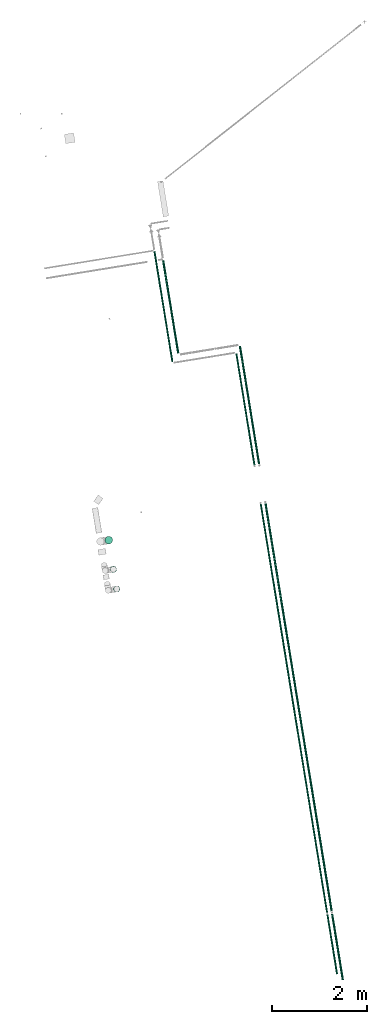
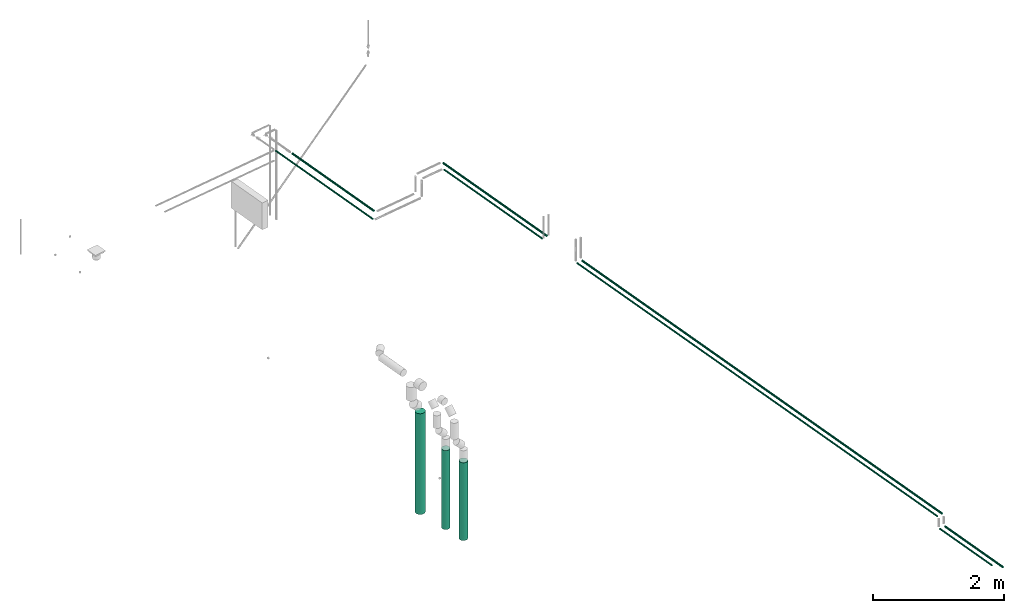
# One storey, part 1 of 11: 11 flow segments.
"""IFC2X3 building model written with IfcOpenShell, lengths in millimetres."""

import ifcopenshell
import ifcopenshell.guid

model = None  # the IFC model being written
_history = None  # IfcOwnerHistory: only IFC2X3 demands one
_inside = {}  # id of a spatial element -> (the spatial element, [elements in it])
_under = {}  # id of a project, library or spatial element -> (it, [spatial elements below it])
_declared = {}  # id of a project -> (the project, [libraries it declares])
_typed = {}  # id of a type object -> (the type object, [elements of that type])
_made_of = {}  # id of a material, layer set ... -> (it, [elements and type objects made of it])


def new_model(schema):
    """Start an empty IFC model of exactly this schema.

    Asked for "IFC4X3", IfcOpenShell would pick the latest addendum, in which some entities
    have other attributes; the version numbers below select the first issue.
    IFC2X3 requires an IfcOwnerHistory on every rooted entity: one is made here for all.
    """
    global model, _history
    if schema == "IFC4X3":
        model = ifcopenshell.file(schema_version=(4, 3, 0, 0))
    else:
        model = ifcopenshell.file(schema=schema)
    _inside.clear()
    _under.clear()
    _declared.clear()
    _typed.clear()
    _made_of.clear()
    _history = None
    if model.schema == "IFC2X3":
        org = make("IfcOrganization", Name="unknown")
        user = make(
            "IfcPersonAndOrganization",
            ThePerson=make("IfcPerson", FamilyName="unknown"),
            TheOrganization=org,
        )
        app = make(
            "IfcApplication",
            ApplicationDeveloper=org,
            Version="unknown",
            ApplicationFullName="unknown",
            ApplicationIdentifier="unknown",
        )
        _history = make(
            "IfcOwnerHistory",
            OwningUser=user,
            OwningApplication=app,
            ChangeAction="ADDED",
            CreationDate=0,
        )
    return model


def make(cls, **values):
    """One entity of the class cls with the attributes given. An attribute that is None is left unset."""
    return model.create_entity(
        cls, **{name: value for name, value in values.items() if value is not None}
    )


def entity(cls, *values):
    """Any entity or typed value of the class cls, its attributes in the order of the schema. None: left unset."""
    e = model.create_entity(cls)
    for i, value in enumerate(values):
        if value is not None:
            e[i] = value
    return e


def rooted(cls, **values):
    """An entity with a GlobalId (a new one), such as an element, a storey or a relation."""
    return make(cls, GlobalId=ifcopenshell.guid.new(), OwnerHistory=_history, **values)


def si_unit(unit_type, name, prefix=None):
    """IfcSIUnit, for example si_unit("LENGTHUNIT", "METRE", prefix="MILLI")."""
    return make("IfcSIUnit", UnitType=unit_type, Prefix=prefix, Name=name)


def converted_unit(unit_type, name, factor, base, dimensions=None, offset=None):
    """IfcConversionBasedUnit, such as the inch: factor (a typed value) times the base unit."""
    return make(
        "IfcConversionBasedUnit"
        if offset is None
        else "IfcConversionBasedUnitWithOffset",
        ConversionOffset=offset,
        Dimensions=None
        if dimensions is None
        else entity("IfcDimensionalExponents", *dimensions),
        UnitType=unit_type,
        Name=name,
        ConversionFactor=make(
            "IfcMeasureWithUnit", ValueComponent=factor, UnitComponent=base
        ),
    )


def derived_unit(unit_type, elements):
    """IfcDerivedUnit: a product of units, each with its exponent."""
    return make(
        "IfcDerivedUnit",
        Elements=[
            make("IfcDerivedUnitElement", Unit=unit, Exponent=power)
            for unit, power in elements
        ],
        UnitType=unit_type,
    )


def assignment(units):
    """IfcUnitAssignment: the units of a project."""
    return None if units is None else make("IfcUnitAssignment", Units=units)


def point(xyz):
    """IfcCartesianPoint."""
    return None if xyz is None else make("IfcCartesianPoint", Coordinates=xyz)


def direction(xyz):
    """IfcDirection."""
    return None if xyz is None else make("IfcDirection", DirectionRatios=xyz)


def frame(location, z_axis=None, x_axis=None):
    """IfcAxis2Placement3D, a coordinate frame: its origin and axes. An axis left out is left unset."""
    return make(
        "IfcAxis2Placement3D",
        Location=point(location),
        Axis=direction(z_axis),
        RefDirection=direction(x_axis),
    )


def frame_2d(location, x_axis=None):
    """IfcAxis2Placement2D, a coordinate frame in the plane: its origin and x axis."""
    return make(
        "IfcAxis2Placement2D", Location=point(location), RefDirection=direction(x_axis)
    )


def origin():
    """The frame at (0, 0, 0) with its axes left unset."""
    return frame((0.0, 0.0, 0.0))


def origin_with_axes():
    """The frame at (0, 0, 0) with the z axis (0, 0, 1) and the x axis (1, 0, 0) written out."""
    return frame((0.0, 0.0, 0.0), z_axis=(0.0, 0.0, 1.0), x_axis=(1.0, 0.0, 0.0))


def origin_2d_with_axis():
    """The frame at (0, 0) in the plane with the x axis (1, 0) written out."""
    return frame_2d((0.0, 0.0), x_axis=(1.0, 0.0))


def place(relative_to, where):
    """IfcLocalPlacement: puts the frame where relative to a parent placement (None: the world)."""
    return make(
        "IfcLocalPlacement", PlacementRelTo=relative_to, RelativePlacement=where
    )


def context(
    kind, dimensions, precision=None, world=None, true_north=None, identifier=None
):
    """IfcGeometricRepresentationContext, for example the 3D "Model" context."""
    return make(
        "IfcGeometricRepresentationContext",
        ContextIdentifier=identifier,
        ContextType=kind,
        CoordinateSpaceDimension=dimensions,
        Precision=precision,
        WorldCoordinateSystem=world,
        TrueNorth=true_north,
    )


def subcontext(parent, identifier, kind, view, scale=None):
    """IfcGeometricRepresentationSubContext, for example "Body" below "Model"."""
    return make(
        "IfcGeometricRepresentationSubContext",
        ContextIdentifier=identifier,
        ContextType=kind,
        ParentContext=parent,
        TargetScale=scale,
        TargetView=view,
    )


def project(units=None, contexts=None):
    """IfcProject with its units and contexts."""
    return rooted(
        "IfcProject",
        Name="project",
        RepresentationContexts=contexts,
        UnitsInContext=assignment(units),
    )


def spatial(cls, under=None, at=None, **own):
    """A site, building, storey or space (cls), placed at a placement, below another one or the project."""
    s = rooted(cls, ObjectPlacement=at, **own)
    if under is not None:
        _under.setdefault(under.id(), (under, []))[1].append(s)
    return s


def profile(cls, at=None, kind="AREA", **sizes):
    """A parametric profile (cls). Its sizes go by their IFC names, for example OverallWidth=200.0."""
    return make(cls, ProfileType=kind, Position=at, **sizes)


def circle(**sizes):
    """IfcCircleProfileDef."""
    return profile("IfcCircleProfileDef", **sizes)


def extrude(swept, where, along, depth):
    """IfcExtrudedAreaSolid: the profile swept, set in the frame where, extruded along a direction by depth."""
    return make(
        "IfcExtrudedAreaSolid",
        SweptArea=swept,
        Position=where,
        ExtrudedDirection=direction(along),
        Depth=depth,
    )


def shape(context_of_items, identifier, shape_type, items):
    """IfcShapeRepresentation: the items that make up one representation, for example the "Body"."""
    return make(
        "IfcShapeRepresentation",
        ContextOfItems=context_of_items,
        RepresentationIdentifier=identifier,
        RepresentationType=shape_type,
        Items=items,
    )


def made_of(thing, what):
    """Note that an element or type object is made of a material, layer set ...; save() writes the relation."""
    if what is not None:
        _made_of.setdefault(what.id(), (what, []))[1].append(thing)
    return thing


def type_object(cls, material=None, **own):
    """A type object (cls), such as IfcWallType, which elements share."""
    return made_of(rooted(cls, **own), material)


def element(
    cls,
    number,
    at=None,
    inside=None,
    cuts=None,
    type_object=None,
    material=None,
    context=None,
    identifier="Body",
    shape_type=None,
    held_by="IfcProductDefinitionShape",
    body=None,
    shapes=None,
    **own,
):
    """One element of the class cls, such as IfcWall. Its Tag is "e" and its number.

    at: its placement. inside: the storey or other place that contains it. cuts: it is an
    opening in that element (IfcRelVoidsElement). A single representation is given by context,
    identifier, shape_type and body (its items); several are given by shapes. held_by: the class
    of the entity that holds the representations. save() writes the other relations.
    """
    e = rooted(cls, Tag="e%d" % number, ObjectPlacement=at, **own)
    if body is not None:
        shapes = [shape(context, identifier, shape_type, body)]
    if shapes is not None:
        e.Representation = make(held_by, Representations=shapes)
    if inside is not None:
        _inside.setdefault(inside.id(), (inside, []))[1].append(e)
    if cuts is not None:
        rooted(
            "IfcRelVoidsElement", RelatingBuildingElement=cuts, RelatedOpeningElement=e
        )
    if type_object is not None:
        _typed.setdefault(type_object.id(), (type_object, []))[1].append(e)
    return made_of(e, material)


def aggregate(whole, parts):
    """IfcRelAggregates: a whole, such as a stair, and the parts it consists of."""
    return rooted("IfcRelAggregates", RelatingObject=whole, RelatedObjects=parts)


def save(model, path):
    """Write the relations noted so far, then the file.

    IfcRelAggregates (storeys below a building ...), IfcRelContainedInSpatialStructure (elements
    in a storey), IfcRelDefinesByType, IfcRelAssociatesMaterial and IfcRelDeclares: one each for
    every whole, place, type object, material and project.
    """
    for whole, parts in _under.values():
        aggregate(whole, parts)
    for where, things in _inside.values():
        rooted(
            "IfcRelContainedInSpatialStructure",
            RelatedElements=things,
            RelatingStructure=where,
        )
    for kind, things in _typed.values():
        rooted("IfcRelDefinesByType", RelatedObjects=things, RelatingType=kind)
    for what, things in _made_of.values():
        rooted("IfcRelAssociatesMaterial", RelatedObjects=things, RelatingMaterial=what)
    for by, libraries in _declared.values():
        rooted("IfcRelDeclares", RelatingContext=by, RelatedDefinitions=libraries)
    model.write(path)


model = new_model("IFC2X3")

# Units and contexts
plan_context = context("Plan", 3, precision=1e-05, world=origin_with_axes())
model_context = context("Model", 3, precision=0.01, world=origin(), true_north=direction((6.12323399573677e-17, 1.0)))
body_context = subcontext(model_context, "Body", "Model", "MODEL_VIEW")
ifc_project = project(units=[converted_unit("PLANEANGLEUNIT", "DEGREE", entity("IfcPositiveLengthMeasure", 0.0174532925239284), si_unit("PLANEANGLEUNIT", "RADIAN"), dimensions=[0, 0, 0, 0, 0, 0, 0]), si_unit("AREAUNIT", "SQUARE_METRE"), si_unit("LENGTHUNIT", "METRE", prefix="MILLI"), si_unit("MASSUNIT", "GRAM", prefix="KILO"), si_unit("POWERUNIT", "WATT"), si_unit("PRESSUREUNIT", "PASCAL", prefix="KILO"), si_unit("FORCEUNIT", "NEWTON", prefix="KILO"), si_unit("ELECTRICVOLTAGEUNIT", "VOLT"), si_unit("ELECTRICCURRENTUNIT", "AMPERE"), si_unit("THERMODYNAMICTEMPERATUREUNIT", "DEGREE_CELSIUS"), si_unit("TIMEUNIT", "SECOND"), si_unit("VOLUMEUNIT", "CUBIC_METRE"), derived_unit("LINEARVELOCITYUNIT", [(si_unit("LENGTHUNIT", "METRE"), 1), (si_unit("TIMEUNIT", "SECOND"), -1)]), derived_unit("VOLUMETRICFLOWRATEUNIT", [(si_unit("VOLUMEUNIT", "CUBIC_METRE"), 1), (si_unit("TIMEUNIT", "SECOND"), -1)]), derived_unit("THERMALTRANSMITTANCEUNIT", [(si_unit("POWERUNIT", "WATT"), 1), (si_unit("THERMODYNAMICTEMPERATUREUNIT", "KELVIN"), -1), (si_unit("AREAUNIT", "SQUARE_METRE"), -1)]), derived_unit("SOUNDPRESSUREUNIT", [(si_unit("PRESSUREUNIT", "PASCAL"), 1)])], contexts=[model_context, plan_context])

# Site, building, storey
site_placement = place(None, frame((-0.000710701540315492, 0.00438415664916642, 0.0), z_axis=(0.0, 0.0, 1.0), x_axis=(-0.160236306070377, 0.987078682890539, 0.0)))
site = spatial("IfcSite", under=ifc_project, at=site_placement, Name="Default", CompositionType="ELEMENT")
building_placement = place(site_placement, origin_with_axes())
building = spatial("IfcBuilding", under=site, at=building_placement, CompositionType="ELEMENT")
storey_placement = place(building_placement, frame((0.0, 0.0, 58999.9999999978), z_axis=(0.0, 0.0, 1.0), x_axis=(1.0, 0.0, 0.0)))
storey = spatial("IfcBuildingStorey", under=building, at=storey_placement, Name="Nivå F", CompositionType="ELEMENT", Elevation=58999.9999999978)

# Flow segments
pipe_segment_type_1 = type_object("IfcPipeSegmentType", Name="Pipe Types:MA", PredefinedType="NOTDEFINED")
flow_segment_1_placement = place(storey_placement, origin_with_axes())
element("IfcFlowSegment", 1, at=flow_segment_1_placement, inside=storey, type_object=pipe_segment_type_1, Name="Pipe Types:MA", ObjectType="Pipe Types:MA", context=body_context, shape_type="SweptSolid", body=[
    extrude(circle(Radius=67.5, at=origin_2d_with_axis()), frame((771672.596197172, -501322.253600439, 52.8989009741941), z_axis=(0.0, 0.0, 1.0), x_axis=(-1.0, 0.0, 0.0)), (0.0, 0.0, 1.0), 1447.101099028),
])
flow_segment_2_placement = place(storey_placement, origin_with_axes())
element("IfcFlowSegment", 2, at=flow_segment_2_placement, inside=storey, type_object=pipe_segment_type_1, Name="Pipe Types:MA", ObjectType="Pipe Types:MA", context=body_context, shape_type="SweptSolid", body=[
    extrude(circle(Radius=67.5, at=origin_2d_with_axis()), frame((772092.619232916, -501318.253769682, 32.0895285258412), z_axis=(0.0, 0.0, 1.0), x_axis=(-1.0, 0.0, 0.0)), (0.0, 0.0, 1.0), 1467.91047147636),
])
pipe_segment_type_2 = type_object("IfcPipeSegmentType", Name="Pipe Types:Rustfrie stålrør", PredefinedType="NOTDEFINED")
flow_segment_3_placement = place(storey_placement, origin_with_axes())
element("IfcFlowSegment", 3, at=flow_segment_3_placement, inside=storey, type_object=pipe_segment_type_2, Name="Pipe Types:Rustfrie stålrør", ObjectType="Pipe Types:Rustfrie stålrør", context=body_context, shape_type="SweptSolid", body=[
    extrude(circle(Radius=80.0000001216, at=origin_2d_with_axis()), frame((772713.737290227, -501320.862780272, -16.934793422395)), (0.0, 0.0, 1.0), 1873.72583002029),
])
pipe_segment_type_3 = type_object("IfcPipeSegmentType", Name="Pipe Types:Kobberrør", PredefinedType="NOTDEFINED")
flow_segment_4_placement = place(storey_placement, origin_with_axes())
element("IfcFlowSegment", 4, at=flow_segment_4_placement, inside=storey, type_object=pipe_segment_type_3, Name="Pipe Types:Kobberrør", ObjectType="Pipe Types:Kobberrør", context=body_context, shape_type="SweptSolid", body=[
    extrude(circle(Radius=14.0, at=origin_2d_with_axis()), frame((762943.982021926, -504595.65053932, 2830.0), z_axis=(1.0, 0.0, 0.0), x_axis=(0.0, -1.0, 0.0)), (0.0, 0.0, 1.0), 1259.71316510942),
])
flow_segment_5_placement = place(storey_placement, origin_with_axes())
element("IfcFlowSegment", 5, at=flow_segment_5_placement, inside=storey, type_object=pipe_segment_type_3, Name="Pipe Types:Kobberrør", ObjectType="Pipe Types:Kobberrør", context=body_context, shape_type="SweptSolid", body=[
    extrude(circle(Radius=17.5, at=frame_2d((0.0, -8.66293703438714e-12), x_axis=(1.0, 0.0))), frame((762800.982021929, -504695.650539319, 2830.0), z_axis=(1.0, 0.0, 0.0), x_axis=(0.0, -1.0, 0.0)), (0.0, 0.0, 1.0), 1398.7131651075),
])
flow_segment_6_placement = place(storey_placement, origin_with_axes())
element("IfcFlowSegment", 6, at=flow_segment_6_placement, inside=storey, type_object=pipe_segment_type_3, Name="Pipe Types:Kobberrør", ObjectType="Pipe Types:Kobberrør", context=body_context, shape_type="SweptSolid", body=[
    extrude(circle(Radius=14.0, at=origin_2d_with_axis()), frame((773782.557665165, -504595.65053932, 3030.0), z_axis=(1.0, 0.0, 0.0), x_axis=(0.0, -1.0, 0.0)), (0.0, 0.0, 1.0), 2365.99999999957),
])
flow_segment_7_placement = place(storey_placement, origin_with_axes())
element("IfcFlowSegment", 7, at=flow_segment_7_placement, inside=storey, type_object=pipe_segment_type_3, Name="Pipe Types:Kobberrør", ObjectType="Pipe Types:Kobberrør", context=body_context, shape_type="SweptSolid", body=[
    extrude(circle(Radius=17.5, at=origin_2d_with_axis()), frame((773793.557665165, -504695.650539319, 3030.0), z_axis=(1.0, 0.0, 0.0), x_axis=(0.0, -1.0, 0.0)), (0.0, 0.0, 1.0), 2497.99999999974),
])
flow_segment_8_placement = place(storey_placement, origin_with_axes())
element("IfcFlowSegment", 8, at=flow_segment_8_placement, inside=storey, type_object=pipe_segment_type_3, Name="Pipe Types:Kobberrør", ObjectType="Pipe Types:Kobberrør", context=body_context, shape_type="SweptSolid", body=[
    extrude(circle(Radius=17.5, at=origin_2d_with_axis()), frame((776361.557665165, -503390.672878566, 2680.0), z_axis=(1.0, 0.0, 0.0), x_axis=(0.0, -1.0, 0.0)), (0.0, 0.0, 1.0), 1969.0619789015),
])
flow_segment_9_placement = place(storey_placement, origin_with_axes())
element("IfcFlowSegment", 9, at=flow_segment_9_placement, inside=storey, type_object=pipe_segment_type_3, Name="Pipe Types:Kobberrør", ObjectType="Pipe Types:Kobberrør", context=body_context, shape_type="SweptSolid", body=[
    extrude(circle(Radius=14.0, at=origin_2d_with_axis()), frame((764259.695187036, -504595.65053932, 3030.0), z_axis=(1.0, 0.0, 0.0), x_axis=(0.0, -1.0, 0.0)), (0.0, 0.0, 1.0), 8686.86247812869),
])
flow_segment_10_placement = place(storey_placement, origin_with_axes())
element("IfcFlowSegment", 10, at=flow_segment_10_placement, inside=storey, type_object=pipe_segment_type_3, Name="Pipe Types:Kobberrør", ObjectType="Pipe Types:Kobberrør", context=body_context, shape_type="SweptSolid", body=[
    extrude(circle(Radius=17.5, at=origin_2d_with_axis()), frame((764269.695187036, -504695.650539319, 3030.0), z_axis=(1.0, 0.0, 0.0), x_axis=(0.0, -1.0, 0.0)), (0.0, 0.0, 1.0), 8673.86247812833),
])
flow_segment_11_placement = place(storey_placement, origin_with_axes())
element("IfcFlowSegment", 11, at=flow_segment_11_placement, inside=storey, type_object=pipe_segment_type_3, Name="Pipe Types:Kobberrør", ObjectType="Pipe Types:Kobberrør", context=body_context, shape_type="SweptSolid", body=[
    extrude(circle(Radius=14.0, at=frame_2d((-6.93034962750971e-11, 0.0), x_axis=(1.0, 0.0))), frame((776204.557665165, -503240.672878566, 2680.0), z_axis=(1.0, 0.0, 0.0), x_axis=(0.0, -1.0, 0.0)), (0.0, 0.0, 1.0), 2342.60381449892),
])

save(model, "model.ifc")
